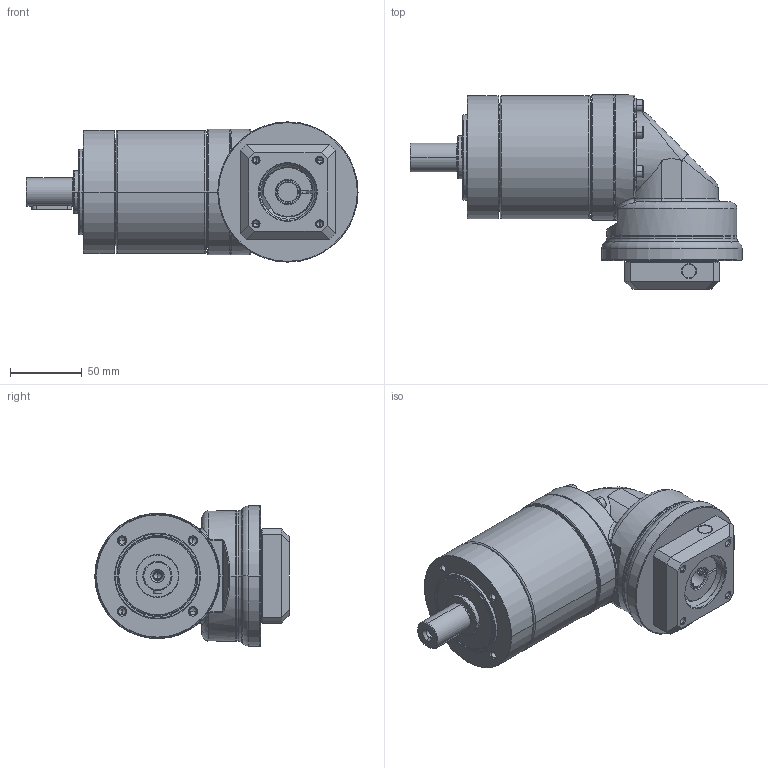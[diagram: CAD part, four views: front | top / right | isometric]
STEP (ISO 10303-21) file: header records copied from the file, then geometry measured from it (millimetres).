
FILE_DESCRIPTION((''),'2;1');
FILE_NAME('PG2R-080_2ST_14-P0411300101_ASM','2016-04-22T',('d01943'),(''),'PRO/ENGINEER BY PARAMETRIC TECHNOLOGY CORPORATION, 2008410','PRO/ENGINEER BY PARAMETRIC TECHNOLOGY CORPORATION, 2008410','');
FILE_SCHEMA(('CONFIG_CONTROL_DESIGN'));
Length unit declared in the file: millimetre
Products named in the file (12): P1325310001; P0251300001; P0350301103; P1349300001; P1017300001; P0713300001; P0503300005; P1350300001; P0411300101; P1702300001; 2111BA05025; PG2R-080_2ST_14-P0411300101_ASM
Assembly tree (16 placements, depth 2):
  PG2R-080_2ST_14-P0411300101_ASM
    P1325310001
    P0251300001
    P0350301103
    P1349300001
    P1017300001
    P0713300001
    P0503300005
    P1350300001
    P0411300101
    P1702300001
    2111BA05025  x6
Bounding box: 232 x 135.75 x 98 mm (x, y, z)
Volume: 730113.6 mm3; surface area: 189542.2 mm2
Topology: 16 solids, 17 shells, 803 faces, 1773 edges, 1026 vertices
Faces by surface type: cylinder 252, cone 230, plane 191, torus 98, bspline 32
Entity records: 23274 total; most frequent: CARTESIAN_POINT 8856, DIRECTION 3209, ORIENTED_EDGE 2778, EDGE_CURVE 1389, AXIS2_PLACEMENT_3D 1352, VERTEX_POINT 826, EDGE_LOOP 729, CIRCLE 718
